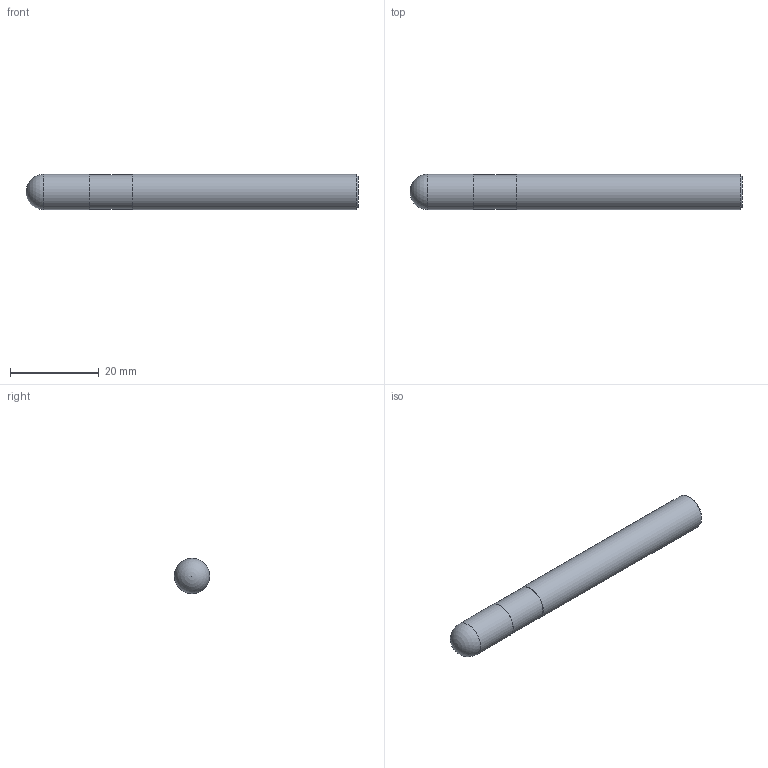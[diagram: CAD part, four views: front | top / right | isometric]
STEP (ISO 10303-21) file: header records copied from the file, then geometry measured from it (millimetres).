
FILE_DESCRIPTION(/* description */ (''),/* implementation_level */ '2;1');
FILE_NAME(/* name */ 'HSXBC4080 0875.stp',/* time_stamp */ '2026-01-27T10:30:25+08:00',/* author */ (''),/* organization */ (''),/* preprocessor_version */ 'ST-DEVELOPER v16',/* originating_system */ 'SIEMENS PLM Software NX 10.0',/* authorisation */ '');
FILE_SCHEMA (('CONFIG_CONTROL_DESIGN'));
Length unit declared in the file: millimetre
Products named in the file (1): HSXBC4080 0875_dxf
Bounding box: 75 x 8 x 8 mm (x, y, z)
Volume: 3677.1 mm3; surface area: 1928.1 mm2
Topology: 1 solids, 1 shells, 8 faces, 14 edges, 9 vertices
Faces by surface type: plane 3, cylinder 3, cone 1, sphere 1
Full cylindrical faces by diameter (mm): 7.8 x1, 8 x2
Entity records: 238 total; most frequent: DIRECTION 32, CARTESIAN_POINT 23, AXIS2_PLACEMENT_3D 16, EDGE_LOOP 14, ORIENTED_EDGE 14, FACE_BOUND 12, ADVANCED_FACE 8, PERSON_AND_ORGANIZATION 7
